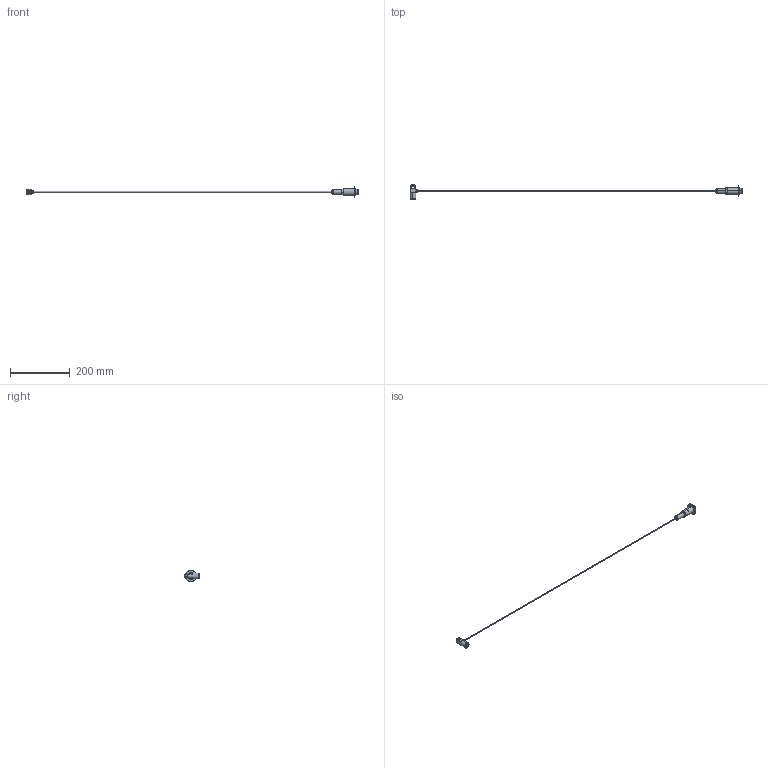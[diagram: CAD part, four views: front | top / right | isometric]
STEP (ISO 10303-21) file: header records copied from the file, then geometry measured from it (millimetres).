
FILE_DESCRIPTION (( 'STEP AP214' ), '1' );
FILE_NAME ('23.HYDRAU1000F.STEP', '2017-11-19T13:11:15', ( '' ), ( '' ), 'SwSTEP 2.0', 'SolidWorks 2016', '' );
FILE_SCHEMA (( 'AUTOMOTIVE_DESIGN' ));
Length unit declared in the file: millimetre
Products named in the file (1): 23.HYDRAU1000F
Bounding box: 1112 x 49 x 38.93 mm (x, y, z)
Volume: 44504.2 mm3; surface area: 26813.2 mm2
Topology: 2 solids, 2 shells, 96 faces, 224 edges, 140 vertices
Faces by surface type: plane 46, cylinder 22, torus 18, cone 8, sphere 2
Entity records: 3155 total; most frequent: CARTESIAN_POINT 929, DIRECTION 456, ORIENTED_EDGE 444, EDGE_CURVE 222, AXIS2_PLACEMENT_3D 195, VERTEX_POINT 140, EDGE_LOOP 108, CIRCLE 98
